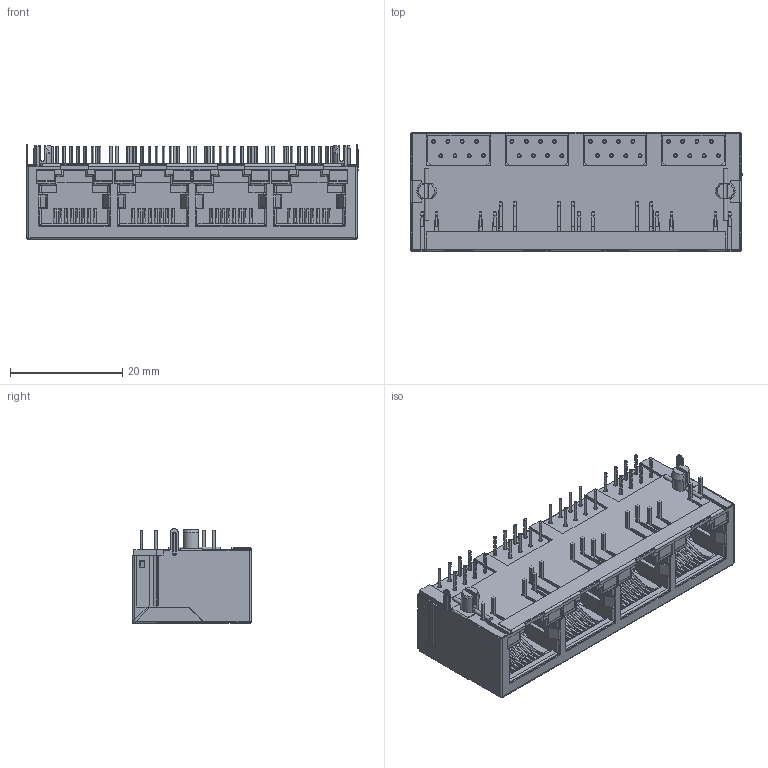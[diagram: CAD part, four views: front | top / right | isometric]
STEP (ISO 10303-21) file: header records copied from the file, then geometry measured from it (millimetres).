
FILE_DESCRIPTION((''),'2;1');
FILE_NAME('5921-LED-1X4-8P8C_ASM','2021-09-07T16:37:07',('CSCE02'),(''),'CREO PARAMETRIC BY PTC INC, 2020281','CREO PARAMETRIC BY PTC INC, 2020281','');
FILE_SCHEMA(('CONFIG_CONTROL_DESIGN','GEOMETRIC_VALIDATION_PROPERTIES_MIM'));
Length unit declared in the file: millimetre
Products named in the file (7): 5921-LED-1X4-00; 5921-00; LED00; PRT0002; 5921-LED-1X4-000; 5921-LED-1X4-8P8C_ASM
Assembly tree (14 placements, depth 2):
  5921-LED-1X4-8P8C_ASM
    5921-LED-1X4-00
    5921-00  x4
    LED00  x2
    PRT0002  x3
    LED00  x3
    5921-LED-1X4-000
Bounding box: 59.25 x 21.27 x 16.95 mm (x, y, z)
Volume: 9481.5 mm3; surface area: 22449.9 mm2
Topology: 46 solids, 46 shells, 2878 faces, 7460 edges, 4620 vertices
Faces by surface type: plane 1670, bspline 540, cylinder 532, cone 132, torus 4
Entity records: 58387 total; most frequent: CARTESIAN_POINT 17858, ORIENTED_EDGE 8806, DIRECTION 7530, EDGE_CURVE 4403, VECTOR 3464, LINE 3464, VERTEX_POINT 2734, AXIS2_PLACEMENT_3D 2033
